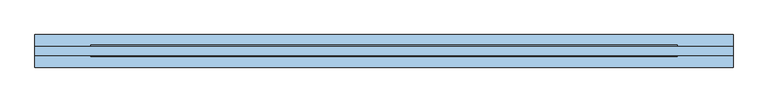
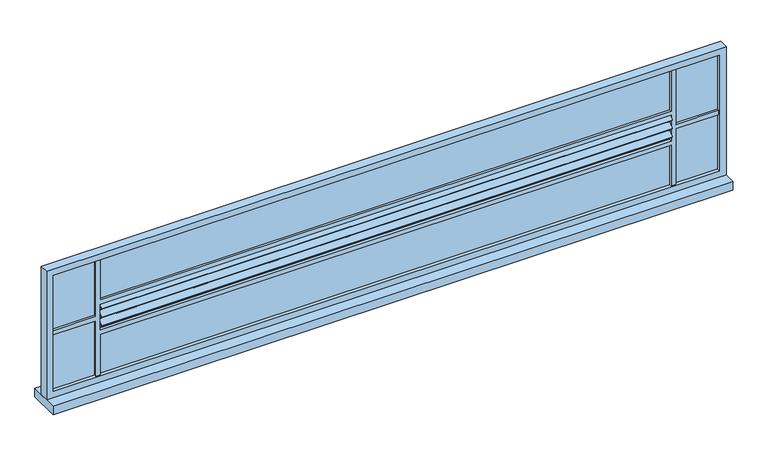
"""IFC4 building model written with IfcOpenShell, lengths in millimetres: window geometry, JANELA BASCULANTE PRÁTICA DE REVIT : JANELA AÇO E VIDRO BASCULANTE 300X60."""

from ifc_helpers import new_model, si_unit, frame, origin, place, context, project, spatial, polyline, outline, extrude, source, transform, mapped, element, save


def window_a2abf67e(model_context):
    return source(origin(), model_context, "Body", "SweptSolid", [
        extrude(outline(polyline([(-20.0, 0.0), (0.0, 0.0), (0.0, -2500.0), (-20.0, -2500.0), (-20.0, 0.0)])), frame((-1250.0, 3.5355339, 1129.3933983), z_axis=(0.0, 0.7071067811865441, 0.7071067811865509), x_axis=(0.0, 0.7071067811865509, -0.7071067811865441)), (0.0, 0.0, 1.0), 10.0),
        extrude(outline(polyline([(-39.9999999, 0.0), (0.0, 0.0), (0.0, -2520.0), (-39.9999999, -2520.0), (-39.9999999, 0.0)]), holes=[polyline([(-29.9999999, -10.0), (-29.9999999, -2510.0), (-10.0, -2510.0), (-10.0, -10.0), (-29.9999999, -10.0)])]), frame((-1260.0, 3.5355339, 1115.2512627), z_axis=(0.0, 0.7071067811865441, 0.7071067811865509), x_axis=(0.0, 0.7071067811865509, -0.7071067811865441)), (0.0, 0.0, 1.0), 30.0),
        extrude(outline(polyline([(-20.0, 0.0), (0.0, 0.0), (0.0, -2500.0), (-20.0, -2500.0), (-20.0, 0.0)])), frame((-1250.0, 3.5355339, 1089.3933983), z_axis=(0.0, 0.7071067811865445, 0.7071067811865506), x_axis=(0.0, 0.7071067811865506, -0.7071067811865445)), (0.0, 0.0, 1.0), 10.0),
        extrude(outline(polyline([(-39.9999999, 0.0), (0.0, 0.0), (0.0, -2520.0), (-39.9999999, -2520.0), (-39.9999999, 0.0)]), holes=[polyline([(-29.9999999, -10.0), (-29.9999999, -2510.0), (-10.0, -2510.0), (-10.0, -10.0), (-29.9999999, -10.0)])]), frame((-1260.0, 3.5355339, 1075.2512627), z_axis=(0.0, 0.7071067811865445, 0.7071067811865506), x_axis=(0.0, 0.7071067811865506, -0.7071067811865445)), (0.0, 0.0, 1.0), 30.0),
        extrude(outline(polyline([(-20.0, 0.0), (0.0, 0.0), (0.0, -2500.0), (-20.0, -2500.0), (-20.0, 0.0)])), frame((-1250.0, 3.5355339, 1049.3933983), z_axis=(0.0, 0.7071067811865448, 0.7071067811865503), x_axis=(0.0, 0.7071067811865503, -0.7071067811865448)), (0.0, 0.0, 1.0), 10.0),
        extrude(outline(polyline([(-39.9999999, 0.0), (0.0, 0.0), (0.0, -2520.0), (-39.9999999, -2520.0), (-39.9999999, 0.0)]), holes=[polyline([(-29.9999999, -10.0), (-29.9999999, -2510.0), (-10.0, -2510.0), (-10.0, -10.0), (-29.9999999, -10.0)])]), frame((-1260.0, 3.5355339, 1035.2512627), z_axis=(0.0, 0.7071067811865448, 0.7071067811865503), x_axis=(0.0, 0.7071067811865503, -0.7071067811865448)), (0.0, 0.0, 1.0), 30.0),
        extrude(outline(polyline([(1260.0, -5.0), (-1260.0, -5.0), (-1260.0, 5.0), (1260.0, 5.0), (1260.0, -5.0)])), frame((0.0, 0.0, 830.0), z_axis=(0.0, 0.0, 1.0), x_axis=(1.0, 0.0, 0.0)), (0.0, 0.0, 1.0), 190.0),
        extrude(outline(polyline([(-1280.0, -5.0), (-1470.0, -5.0), (-1470.0, 5.0), (-1280.0, 5.0), (-1280.0, -5.0)])), frame((0.0, 0.0, 1110.0), z_axis=(0.0, 0.0, 1.0), x_axis=(1.0, 0.0, 0.0)), (0.0, 0.0, 1.0), 260.0),
        extrude(outline(polyline([(1260.0, -5.0), (-1260.0, -5.0), (-1260.0, 5.0), (1260.0, 5.0), (1260.0, -5.0)])), frame((0.0, 0.0, 1180.0), z_axis=(0.0, 0.0, 1.0), x_axis=(1.0, 0.0, 0.0)), (0.0, 0.0, 1.0), 190.0),
        extrude(outline(polyline([(1470.0, -5.0), (1280.0, -5.0), (1280.0, 5.0), (1470.0, 5.0), (1470.0, -5.0)])), frame((0.0, 0.0, 1110.0), z_axis=(0.0, 0.0, 1.0), x_axis=(1.0, 0.0, 0.0)), (0.0, 0.0, 1.0), 260.0),
        extrude(outline(polyline([(-1280.0, -5.0), (-1470.0, -5.0), (-1470.0, 5.0), (-1280.0, 5.0), (-1280.0, -5.0)])), frame((0.0, 0.0, 830.0), z_axis=(0.0, 0.0, 1.0), x_axis=(1.0, 0.0, 0.0)), (0.0, 0.0, 1.0), 260.0),
        extrude(outline(polyline([(1470.0, -5.0), (1280.0, -5.0), (1280.0, 5.0), (1470.0, 5.0), (1470.0, -5.0)])), frame((0.0, 0.0, 830.0), z_axis=(0.0, 0.0, 1.0), x_axis=(1.0, 0.0, 0.0)), (0.0, 0.0, 1.0), 260.0),
        extrude(outline(polyline([(1370.0, -1260.0), (1370.0, -1280.0), (1110.0, -1280.0), (1110.0, -1470.0), (1090.0, -1470.0), (1090.0, -1280.0), (830.0, -1280.0), (830.0, -1260.0), (1020.0, -1260.0), (1020.0, 1260.0), (830.0, 1260.0), (830.0, 1280.0), (1090.0, 1280.0), (1090.0, 1470.0), (1110.0, 1470.0), (1110.0, 1280.0), (1370.0, 1280.0), (1370.0, 1260.0), (1180.0, 1260.0), (1180.0, -1260.0), (1370.0, -1260.0)]), holes=[polyline([(1040.0, 1260.0), (1040.0, -1260.0), (1160.0, -1260.0), (1160.0, 1260.0), (1040.0, 1260.0)])]), frame((0.0, -15.0, 0.0), z_axis=(0.0, 1.0, 0.0), x_axis=(0.0, 0.0, 1.0)), (0.0, 0.0, 1.0), 30.0),
        extrude(outline(polyline([(1500.0, 70.0), (1500.0, -70.0), (-1500.0, -70.0), (-1500.0, 70.0), (1500.0, 70.0)])), frame((0.0, 0.0, 760.0), z_axis=(0.0, 0.0, 1.0), x_axis=(1.0, 0.0, 0.0)), (0.0, 0.0, 1.0), 40.0),
        extrude(outline(polyline([(1400.0, 1500.0), (1400.0, -1500.0), (800.0, -1500.0), (800.0, 1500.0), (1400.0, 1500.0)]), holes=[polyline([(1370.0, 1470.0), (830.0, 1470.0), (830.0, -1470.0), (1370.0, -1470.0), (1370.0, 1470.0)])]), frame((0.0, -20.0, 0.0), z_axis=(0.0, 1.0, 0.0), x_axis=(0.0, 0.0, 1.0)), (0.0, 0.0, 1.0), 40.0),
    ])


if __name__ == "__main__":
    model = new_model("IFC4")
    model_context = context("Model", 3, world=origin())
    ifc_project = project(units=[si_unit("LENGTHUNIT", "METRE", prefix="MILLI")], contexts=[model_context])
    site = spatial("IfcSite", under=ifc_project)
    building = spatial("IfcBuilding", under=site)
    placement = place(None, origin())
    window_shape = window_a2abf67e(model_context)
    element("IfcWindow", 1, ObjectType="JANELA BASCULANTE PRÁTICA DE REVIT : JANELA AÇO E VIDRO BASCULANTE 300X60", at=placement, inside=building, context=model_context, shape_type="MappedRepresentation", body=[
        mapped(window_shape, transform((0.0, 0.0, 0.0), x_axis=(1.0, 0.0, 0.0), y_axis=(0.0, 1.0, 0.0), z_axis=(0.0, 0.0, 1.0))),
    ])
    save(model, "model.ifc")
